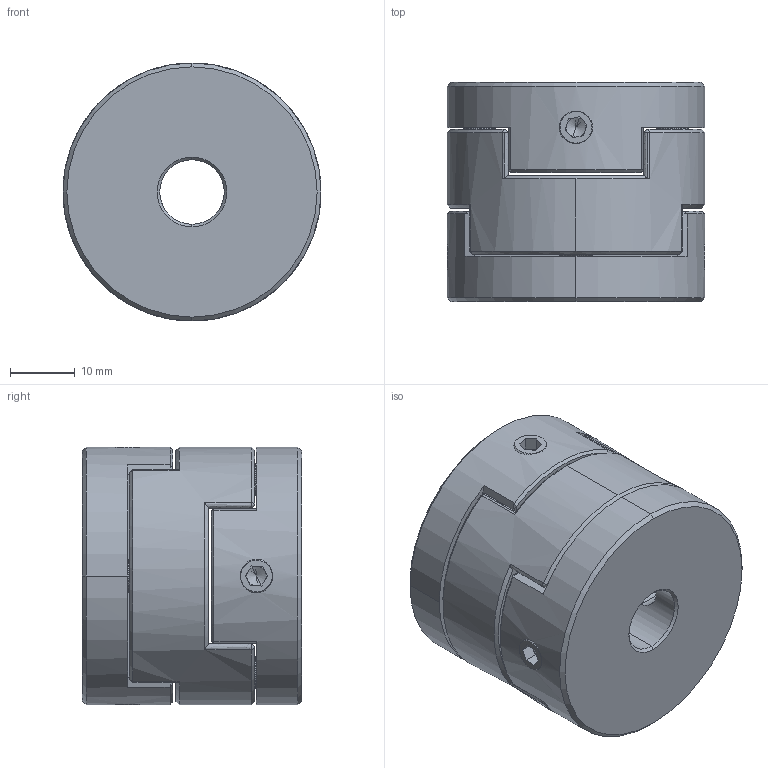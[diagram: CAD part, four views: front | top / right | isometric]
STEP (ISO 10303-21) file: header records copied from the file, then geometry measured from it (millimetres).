
FILE_DESCRIPTION (( 'STEP AP203' ), '1' );
FILE_NAME ('LZ-D-D40L35-10-16.STEP', '2021-10-30T04:46:02', ( '' ), ( '' ), 'SwSTEP 2.0', 'SolidWorks 2018', '' );
FILE_SCHEMA (( 'CONFIG_CONTROL_DESIGN' ));
Length unit declared in the file: millimetre
Products named in the file (1): LZ-D-D40L35-10-16
Bounding box: 40 x 34 x 40 mm (x, y, z)
Volume: 35440.5 mm3; surface area: 12445.2 mm2
Topology: 1 solids, 1 shells, 217 faces, 542 edges, 327 vertices
Faces by surface type: plane 88, bspline 55, cone 48, cylinder 26
Entity records: 7724 total; most frequent: CARTESIAN_POINT 3001, ORIENTED_EDGE 1068, DIRECTION 796, EDGE_CURVE 534, VERTEX_POINT 327, AXIS2_PLACEMENT_3D 289, EDGE_LOOP 243, VECTOR 218
